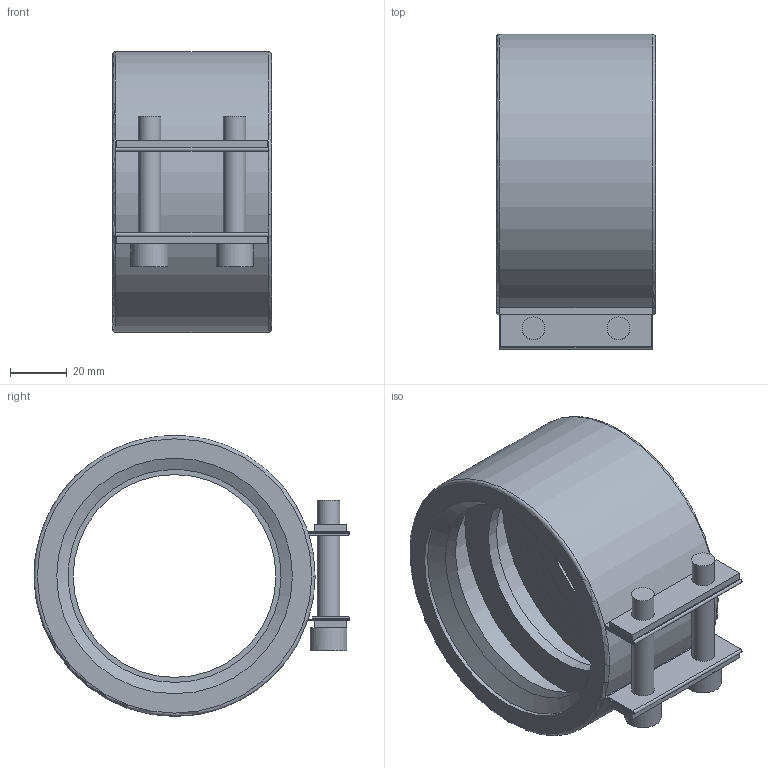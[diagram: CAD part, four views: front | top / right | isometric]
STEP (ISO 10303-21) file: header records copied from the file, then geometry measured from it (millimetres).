
FILE_DESCRIPTION( ( 'STEP AP214' ), '1' );
FILE_NAME( 'C:/Users/ilukic/Documents/ex/gebaudeentwasserung/pe/Geberit adapter clamping connector/359435.stp', '2020-03-26T18:41:17', ( '' ), ( '' ), ' ', 'PARTsolutions', ' ' );
FILE_SCHEMA( ( 'AUTOMOTIVE_DESIGN { 1 0 10303 214 1 1 1 1 }' ) );
Length unit declared in the file: millimetre
Products named in the file (1): _359435
Bounding box: 56 x 111.23 x 98.98 mm (x, y, z)
Volume: 87558.4 mm3; surface area: 77450 mm2
Topology: 1 solids, 1 shells, 121 faces, 309 edges, 202 vertices
Faces by surface type: plane 91, cylinder 22, cone 6, torus 2
Full cylindrical faces by diameter (mm): 8 x8, 13 x2, 71.429 x1, 75 x1, 83 x1, 95.01 x2
Entity records: 4378 total; most frequent: CARTESIAN_POINT 680, DIRECTION 544, ORIENTED_EDGE 536, EDGE_CURVE 268, AXIS2_PLACEMENT_3D 192, VERTEX_POINT 184, EDGE_LOOP 168, LINE 160
